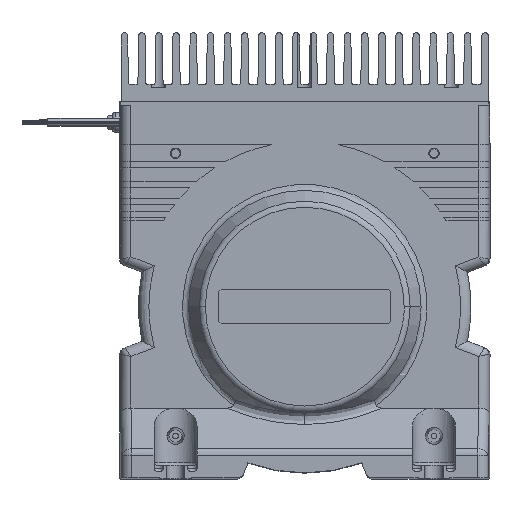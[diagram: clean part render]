
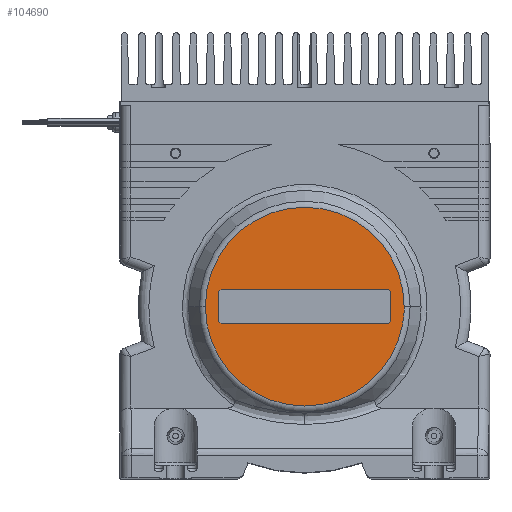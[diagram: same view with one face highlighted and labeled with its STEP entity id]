
A CAD part, top view. The second image highlights one B-rep face of the part: STEP entity #104690.
In plain terms, the highlighted planar face has unit normal (0, 0, 1).
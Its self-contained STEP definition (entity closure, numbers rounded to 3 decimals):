
#43570=CARTESIAN_POINT('',(57.691,-9.5,
95.));
#43580=VERTEX_POINT('',#43570);
#43790=CARTESIAN_POINT('',(-57.691,-9.5,
95.));
#43800=VERTEX_POINT('',#43790);
#43830=CARTESIAN_POINT('',(0.,-9.5,
95.));
#43840=DIRECTION('',(0.,0.,-1.));
#43850=DIRECTION('',(-1.,0.,0.));
#43860=AXIS2_PLACEMENT_3D('',#43830,#43840,#43850);
#43870=CIRCLE('',#43860,57.691);
#43880=CARTESIAN_POINT('',(56.8,-19.6,95.));
#43890=VERTEX_POINT('',#43880);
#43900=EDGE_CURVE('',#43890,#43800,#43870,.T.);
#43920=EDGE_CURVE('',#43580,#43890,#43870,.T.);
#103920=CARTESIAN_POINT('',(0.,0.,
95.));
#103930=DIRECTION('',(0.,0.,-1.));
#103940=DIRECTION('',(-1.,0.,0.));
#103950=AXIS2_PLACEMENT_3D('',#103920,#103930,#103940);
#103960=PLANE('',#103950);
#103970=ORIENTED_EDGE('',*,*,#43900,.F.);
#103980=EDGE_CURVE('',#43800,#43580,#43870,.T.);
#103990=ORIENTED_EDGE('',*,*,#103980,.F.);
#104000=ORIENTED_EDGE('',*,*,#43920,.F.);
#104010=EDGE_LOOP('',(#104000,#103990,#103970));
#104020=FACE_OUTER_BOUND('',#104010,.T.);
#104030=CARTESIAN_POINT('',(-49.,0.,95.));
#104040=DIRECTION('',(-0.707,-0.707,0.));
#104050=VECTOR('',#104040,1.);
#104060=LINE('',#104030,#104050);
#104070=CARTESIAN_POINT('',(-48.5,0.5,
95.));
#104080=VERTEX_POINT('',#104070);
#104090=CARTESIAN_POINT('',(-50.,-1.,
95.));
#104100=VERTEX_POINT('',#104090);
#104110=EDGE_CURVE('',#104080,#104100,#104060,.T.);
#104120=ORIENTED_EDGE('',*,*,#104110,.F.);
#104130=CARTESIAN_POINT('',(-50.,0.,95.));
#104140=DIRECTION('',(0.,-1.,0.));
#104150=VECTOR('',#104140,1.);
#104160=LINE('',#104130,#104150);
#104170=CARTESIAN_POINT('',(-50.,-18.,95.));
#104180=VERTEX_POINT('',#104170);
#104190=EDGE_CURVE('',#104100,#104180,#104160,.T.);
#104200=ORIENTED_EDGE('',*,*,#104190,.F.);
#104210=CARTESIAN_POINT('',(-68.,0.,95.));
#104220=DIRECTION('',(0.707,-0.707,0.));
#104230=VECTOR('',#104220,1.);
#104240=LINE('',#104210,#104230);
#104250=CARTESIAN_POINT('',(-48.5,-19.5,95.));
#104260=VERTEX_POINT('',#104250);
#104270=EDGE_CURVE('',#104180,#104260,#104240,.T.);
#104280=ORIENTED_EDGE('',*,*,#104270,.F.);
#104290=CARTESIAN_POINT('',(0.,-19.5,95.));
#104300=DIRECTION('',(-1.,-0.,0.));
#104310=VECTOR('',#104300,1.);
#104320=LINE('',#104290,#104310);
#104330=CARTESIAN_POINT('',(48.5,-19.5,95.));
#104340=VERTEX_POINT('',#104330);
#104350=EDGE_CURVE('',#104340,#104260,#104320,.T.);
#104360=ORIENTED_EDGE('',*,*,#104350,.T.);
#104370=CARTESIAN_POINT('',(68.,0.,95.));
#104380=DIRECTION('',(-0.707,-0.707,0.));
#104390=VECTOR('',#104380,1.);
#104400=LINE('',#104370,#104390);
#104410=CARTESIAN_POINT('',(50.,-18.,95.));
#104420=VERTEX_POINT('',#104410);
#104430=EDGE_CURVE('',#104420,#104340,#104400,.T.);
#104440=ORIENTED_EDGE('',*,*,#104430,.T.);
#104450=CARTESIAN_POINT('',(50.,0.,95.));
#104460=DIRECTION('',(0.,-1.,0.));
#104470=VECTOR('',#104460,1.);
#104480=LINE('',#104450,#104470);
#104490=CARTESIAN_POINT('',(50.,-1.,
95.));
#104500=VERTEX_POINT('',#104490);
#104510=EDGE_CURVE('',#104500,#104420,#104480,.T.);
#104520=ORIENTED_EDGE('',*,*,#104510,.T.);
#104530=CARTESIAN_POINT('',(49.,0.,95.));
#104540=DIRECTION('',(0.707,-0.707,0.));
#104550=VECTOR('',#104540,1.);
#104560=LINE('',#104530,#104550);
#104570=CARTESIAN_POINT('',(48.5,0.5,
95.));
#104580=VERTEX_POINT('',#104570);
#104590=EDGE_CURVE('',#104580,#104500,#104560,.T.);
#104600=ORIENTED_EDGE('',*,*,#104590,.T.);
#104610=CARTESIAN_POINT('',(0.,0.5,95.));
#104620=DIRECTION('',(1.,-0.,0.));
#104630=VECTOR('',#104620,1.);
#104640=LINE('',#104610,#104630);
#104650=EDGE_CURVE('',#104080,#104580,#104640,.T.);
#104660=ORIENTED_EDGE('',*,*,#104650,.T.);
#104670=EDGE_LOOP('',(#104660,#104600,#104520,#104440,#104360,#104280,
#104200,#104120));
#104680=FACE_BOUND('',#104670,.T.);
#104690=ADVANCED_FACE('',(#104020,#104680),#103960,.F.);
